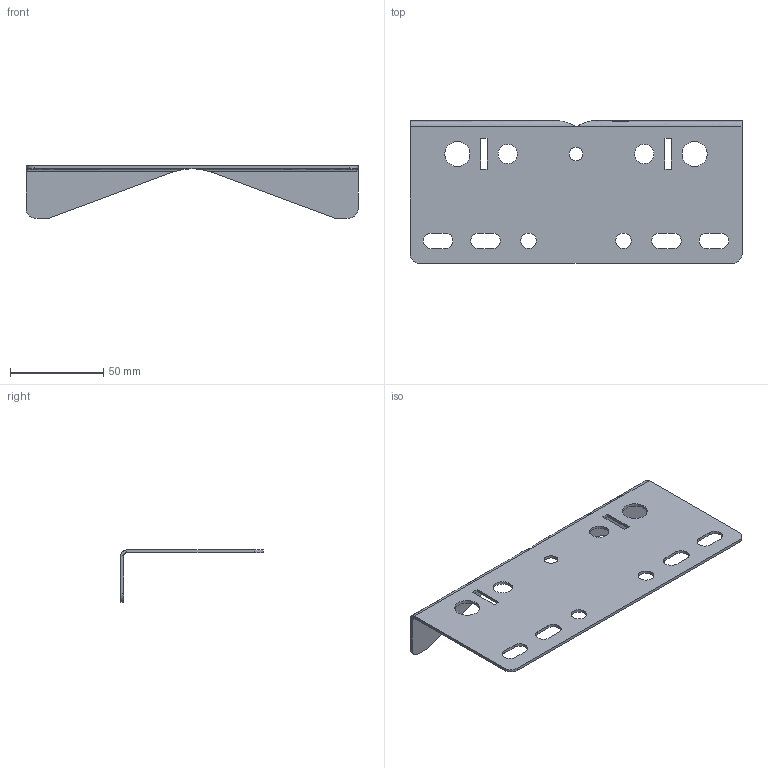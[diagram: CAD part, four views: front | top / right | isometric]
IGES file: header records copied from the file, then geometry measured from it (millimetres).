
Start section:  PTC IGES file: sce-pmj6t8.igs
Global section: file name: sce-pmj6t8.igs; native system: Creo Parametric by PTC Inc.; preprocessor: 2021284; author: dougp; organization: Unknown; date: 20240208.130342; units: inch
Bounding box: 177.8 x 76.2 x 27.94 mm (x, y, z)
Surface area: 30943.5 mm2 (no closed solid volume)
Topology: 0 solids, 0 shells, 65 faces, 360 edges, 360 vertices
Faces by surface type: bspline 65
